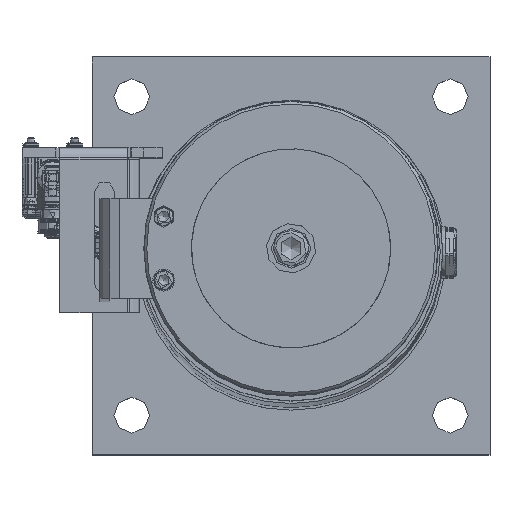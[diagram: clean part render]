
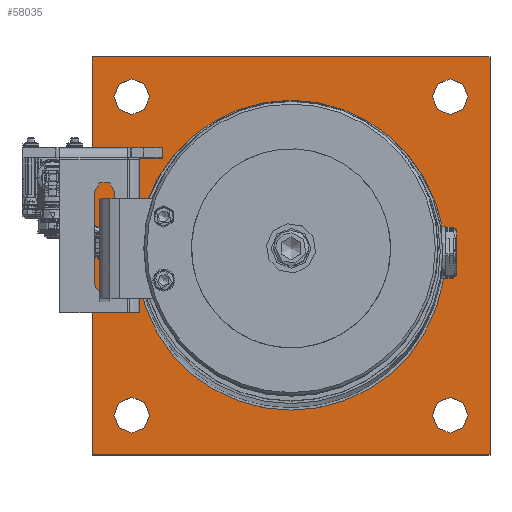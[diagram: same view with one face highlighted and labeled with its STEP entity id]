
A CAD part, top view. The second image highlights one B-rep face of the part: STEP entity #58035.
In plain terms, the highlighted planar face has unit normal (0, 0, 1).
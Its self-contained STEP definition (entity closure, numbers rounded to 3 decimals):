
#1123=PLANE('',#61402);
#5748=FACE_BOUND('',#10260,.T.);
#5749=FACE_BOUND('',#10261,.T.);
#5750=FACE_BOUND('',#10262,.T.);
#5751=FACE_BOUND('',#10263,.T.);
#5752=FACE_BOUND('',#10264,.T.);
#7107=FACE_OUTER_BOUND('',#10259,.T.);
#10259=EDGE_LOOP('',(#40769,#40770,#40771,#40772));
#10260=EDGE_LOOP('',(#40773,#40774));
#10261=EDGE_LOOP('',(#40775,#40776));
#10262=EDGE_LOOP('',(#40777,#40778));
#10263=EDGE_LOOP('',(#40779,#40780));
#10264=EDGE_LOOP('',(#40781));
#13628=CIRCLE('',#61385,9.);
#13629=CIRCLE('',#61386,9.);
#13630=CIRCLE('',#61388,9.);
#13631=CIRCLE('',#61389,9.);
#13632=CIRCLE('',#61391,9.);
#13633=CIRCLE('',#61392,9.);
#13634=CIRCLE('',#61394,9.);
#13635=CIRCLE('',#61395,9.);
#13636=CIRCLE('',#61397,77.5);
#15473=LINE('',#86500,#20565);
#15475=LINE('',#86504,#20567);
#15477=LINE('',#86508,#20569);
#15479=LINE('',#86511,#20571);
#20565=VECTOR('',#67041,10.);
#20567=VECTOR('',#67045,10.);
#20569=VECTOR('',#67049,10.);
#20571=VECTOR('',#67053,10.);
#26034=VERTEX_POINT('',#86469);
#26035=VERTEX_POINT('',#86470);
#26036=VERTEX_POINT('',#86475);
#26037=VERTEX_POINT('',#86476);
#26038=VERTEX_POINT('',#86481);
#26039=VERTEX_POINT('',#86482);
#26040=VERTEX_POINT('',#86487);
#26041=VERTEX_POINT('',#86488);
#26042=VERTEX_POINT('',#86493);
#26043=VERTEX_POINT('',#86497);
#26044=VERTEX_POINT('',#86499);
#26045=VERTEX_POINT('',#86503);
#26046=VERTEX_POINT('',#86507);
#31816=EDGE_CURVE('',#26034,#26035,#13628,.T.);
#31817=EDGE_CURVE('',#26035,#26034,#13629,.T.);
#31819=EDGE_CURVE('',#26036,#26037,#13630,.T.);
#31820=EDGE_CURVE('',#26037,#26036,#13631,.T.);
#31822=EDGE_CURVE('',#26038,#26039,#13632,.T.);
#31823=EDGE_CURVE('',#26039,#26038,#13633,.T.);
#31825=EDGE_CURVE('',#26040,#26041,#13634,.T.);
#31826=EDGE_CURVE('',#26041,#26040,#13635,.T.);
#31828=EDGE_CURVE('',#26042,#26042,#13636,.T.);
#31831=EDGE_CURVE('',#26044,#26043,#15473,.T.);
#31833=EDGE_CURVE('',#26045,#26044,#15475,.T.);
#31835=EDGE_CURVE('',#26046,#26045,#15477,.T.);
#31837=EDGE_CURVE('',#26043,#26046,#15479,.T.);
#40769=ORIENTED_EDGE('',*,*,#31837,.T.);
#40770=ORIENTED_EDGE('',*,*,#31835,.T.);
#40771=ORIENTED_EDGE('',*,*,#31833,.T.);
#40772=ORIENTED_EDGE('',*,*,#31831,.T.);
#40773=ORIENTED_EDGE('',*,*,#31816,.T.);
#40774=ORIENTED_EDGE('',*,*,#31817,.T.);
#40775=ORIENTED_EDGE('',*,*,#31819,.T.);
#40776=ORIENTED_EDGE('',*,*,#31820,.T.);
#40777=ORIENTED_EDGE('',*,*,#31822,.T.);
#40778=ORIENTED_EDGE('',*,*,#31823,.T.);
#40779=ORIENTED_EDGE('',*,*,#31825,.T.);
#40780=ORIENTED_EDGE('',*,*,#31826,.T.);
#40781=ORIENTED_EDGE('',*,*,#31828,.T.);
#58035=ADVANCED_FACE('',(#7107,#5748,#5749,#5750,#5751,#5752),#1123,.T.);
#61385=AXIS2_PLACEMENT_3D('',#86471,#67007,#67008);
#61386=AXIS2_PLACEMENT_3D('',#86472,#67009,#67010);
#61388=AXIS2_PLACEMENT_3D('',#86477,#67014,#67015);
#61389=AXIS2_PLACEMENT_3D('',#86478,#67016,#67017);
#61391=AXIS2_PLACEMENT_3D('',#86483,#67021,#67022);
#61392=AXIS2_PLACEMENT_3D('',#86484,#67023,#67024);
#61394=AXIS2_PLACEMENT_3D('',#86489,#67028,#67029);
#61395=AXIS2_PLACEMENT_3D('',#86490,#67030,#67031);
#61397=AXIS2_PLACEMENT_3D('',#86494,#67035,#67036);
#61402=AXIS2_PLACEMENT_3D('',#86512,#67054,#67055);
#67007=DIRECTION('center_axis',(0.,0.,-1.));
#67008=DIRECTION('ref_axis',(1.,0.,0.));
#67009=DIRECTION('center_axis',(0.,0.,-1.));
#67010=DIRECTION('ref_axis',(1.,0.,0.));
#67014=DIRECTION('center_axis',(0.,0.,-1.));
#67015=DIRECTION('ref_axis',(1.,0.,0.));
#67016=DIRECTION('center_axis',(0.,0.,-1.));
#67017=DIRECTION('ref_axis',(1.,0.,0.));
#67021=DIRECTION('center_axis',(0.,0.,-1.));
#67022=DIRECTION('ref_axis',(1.,0.,0.));
#67023=DIRECTION('center_axis',(0.,0.,-1.));
#67024=DIRECTION('ref_axis',(1.,0.,0.));
#67028=DIRECTION('center_axis',(0.,0.,-1.));
#67029=DIRECTION('ref_axis',(1.,0.,0.));
#67030=DIRECTION('center_axis',(0.,0.,-1.));
#67031=DIRECTION('ref_axis',(1.,0.,0.));
#67035=DIRECTION('center_axis',(0.,0.,-1.));
#67036=DIRECTION('ref_axis',(-1.,0.,0.));
#67041=DIRECTION('',(0.,1.,0.));
#67045=DIRECTION('',(1.,0.,0.));
#67049=DIRECTION('',(0.,-1.,0.));
#67053=DIRECTION('',(-1.,0.,0.));
#67054=DIRECTION('center_axis',(0.,0.,1.));
#67055=DIRECTION('ref_axis',(1.,0.,0.));
#86469=CARTESIAN_POINT('',(189.,-180.,20.));
#86470=CARTESIAN_POINT('',(171.,-180.,20.));
#86471=CARTESIAN_POINT('Origin',(180.,-180.,20.));
#86472=CARTESIAN_POINT('Origin',(180.,-180.,20.));
#86475=CARTESIAN_POINT('',(29.,-20.,20.));
#86476=CARTESIAN_POINT('',(11.,-20.,20.));
#86477=CARTESIAN_POINT('Origin',(20.,-20.,20.));
#86478=CARTESIAN_POINT('Origin',(20.,-20.,20.));
#86481=CARTESIAN_POINT('',(29.,-180.,20.));
#86482=CARTESIAN_POINT('',(11.,-180.,20.));
#86483=CARTESIAN_POINT('Origin',(20.,-180.,20.));
#86484=CARTESIAN_POINT('Origin',(20.,-180.,20.));
#86487=CARTESIAN_POINT('',(189.,-20.,20.));
#86488=CARTESIAN_POINT('',(171.,-20.,20.));
#86489=CARTESIAN_POINT('Origin',(180.,-20.,20.));
#86490=CARTESIAN_POINT('Origin',(180.,-20.,20.));
#86493=CARTESIAN_POINT('',(177.5,-100.,20.));
#86494=CARTESIAN_POINT('Origin',(100.,-100.,20.));
#86497=CARTESIAN_POINT('',(200.,0.,20.));
#86499=CARTESIAN_POINT('',(200.,-200.,20.));
#86500=CARTESIAN_POINT('',(200.,0.,20.));
#86503=CARTESIAN_POINT('',(0.,-200.,20.));
#86504=CARTESIAN_POINT('',(200.,-200.,20.));
#86507=CARTESIAN_POINT('',(0.,0.,20.));
#86508=CARTESIAN_POINT('',(0.,-200.,20.));
#86511=CARTESIAN_POINT('',(0.,0.,20.));
#86512=CARTESIAN_POINT('Origin',(100.,-100.,20.));
